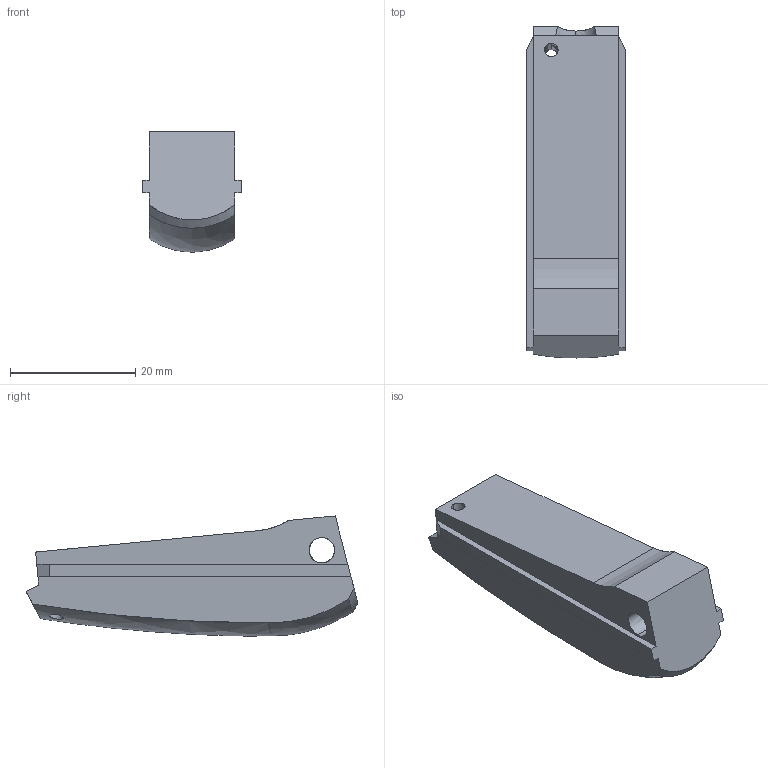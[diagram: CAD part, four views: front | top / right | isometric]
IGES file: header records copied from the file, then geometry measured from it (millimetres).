
Start section: SolidWorks IGES file using analytic representation for surfaces
Global section: file name: \\PSSILO\catalogs\CONTENTCENTRAL\Mainspring housing\Cache\CA460346-6B74-4446-8035-28A54E9A24C8.IGS; native system: SolidWorks 2009; preprocessor: SolidWorks 2009; author: partstream; date: 090717.023419; units: inch
Bounding box: 15.8 x 53.1 x 19.22 mm (x, y, z)
Surface area: 4423.2 mm2 (no closed solid volume)
Topology: 0 solids, 0 shells, 31 faces, 482 edges, 482 vertices
Faces by surface type: bspline 22, revolution 9
